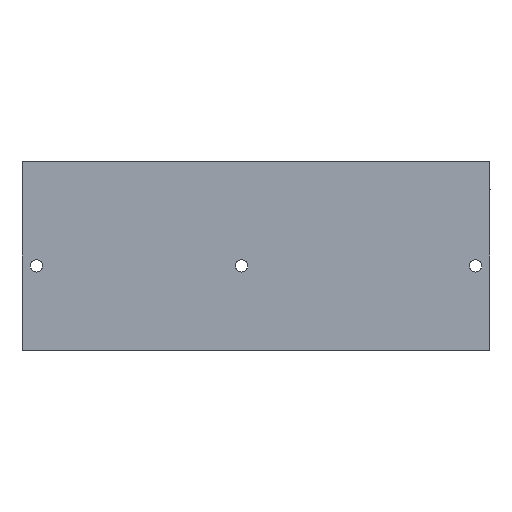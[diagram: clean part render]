
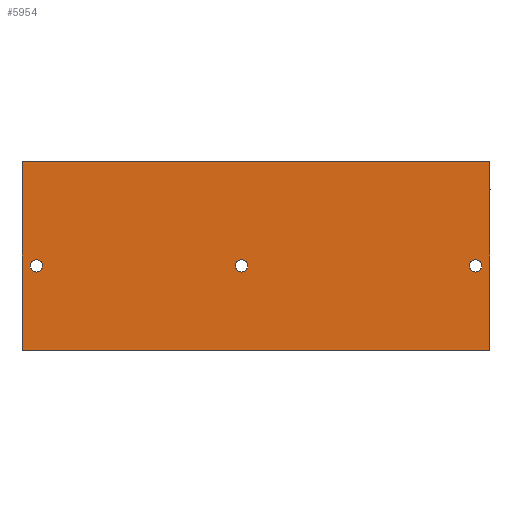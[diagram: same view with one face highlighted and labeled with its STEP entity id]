
A CAD part, front view. The second image highlights one B-rep face of the part: STEP entity #5954.
In plain terms, the highlighted planar face has unit normal (0, -1, 0).
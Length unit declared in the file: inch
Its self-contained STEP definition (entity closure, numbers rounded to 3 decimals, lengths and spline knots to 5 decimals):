
#113 = FACE_BOUND ( 'NONE', #2143, .T. ) ;
#206 = CARTESIAN_POINT ( 'NONE',  ( 0.4, 0., -2.9 ) ) ;
#221 = LINE ( 'NONE', #8350, #3692 ) ;
#464 = ORIENTED_EDGE ( 'NONE', *, *, #9910, .F. ) ;
#577 = FACE_BOUND ( 'NONE', #16115, .T. ) ;
#927 = ORIENTED_EDGE ( 'NONE', *, *, #9884, .F. ) ;
#960 = DIRECTION ( 'NONE',  ( 0., 0., 1. ) ) ;
#1014 = DIRECTION ( 'NONE',  ( 0., 1., 0. ) ) ;
#1239 = CARTESIAN_POINT ( 'NONE',  ( 12.6, 0., -2.9 ) ) ;
#1324 = CARTESIAN_POINT ( 'NONE',  ( 6.1, 0., -2.9 ) ) ;
#1326 = AXIS2_PLACEMENT_3D ( 'NONE', #5044, #4744, #4781 ) ;
#1682 = DIRECTION ( 'NONE',  ( 0., 0., 1. ) ) ;
#1970 = CIRCLE ( 'NONE', #7675, 0.172 ) ;
#2088 = CIRCLE ( 'NONE', #11096, 0.172 ) ;
#2143 = EDGE_LOOP ( 'NONE', ( #16672, #18063 ) ) ;
#2317 = VERTEX_POINT ( 'NONE', #6812 ) ;
#2548 = ORIENTED_EDGE ( 'NONE', *, *, #12016, .T. ) ;
#2718 = DIRECTION ( 'NONE',  ( 0., 0., 1. ) ) ;
#3385 = CARTESIAN_POINT ( 'NONE',  ( 13., 0., 0. ) ) ;
#3507 = CARTESIAN_POINT ( 'NONE',  ( 13., 0., 0. ) ) ;
#3623 = DIRECTION ( 'NONE',  ( 0., 0., -1. ) ) ;
#3638 = CARTESIAN_POINT ( 'NONE',  ( 6.1, 0., -2.9 ) ) ;
#3692 = VECTOR ( 'NONE', #7963, 39.37008 ) ;
#4039 = FACE_BOUND ( 'NONE', #7264, .T. ) ;
#4176 = CARTESIAN_POINT ( 'NONE',  ( 0.4, 0., -2.9 ) ) ;
#4234 = CARTESIAN_POINT ( 'NONE',  ( 0.4, 0., -2.728 ) ) ;
#4704 = PLANE ( 'NONE',  #1326 ) ;
#4744 = DIRECTION ( 'NONE',  ( 0., 1., 0. ) ) ;
#4781 = DIRECTION ( 'NONE',  ( 0., 0., 1. ) ) ;
#4838 = VERTEX_POINT ( 'NONE', #9068 ) ;
#5044 = CARTESIAN_POINT ( 'NONE',  ( 13., 0., 0. ) ) ;
#5170 = DIRECTION ( 'NONE',  ( 0., 0., 1. ) ) ;
#5689 = DIRECTION ( 'NONE',  ( 0., 0., 1. ) ) ;
#5708 = LINE ( 'NONE', #3507, #16160 ) ;
#5954 = ADVANCED_FACE ( 'NONE', ( #4039, #577, #113, #8008 ), #4704, .F. ) ;
#6083 = CARTESIAN_POINT ( 'NONE',  ( 12.6, 0., -2.728 ) ) ;
#6257 = CARTESIAN_POINT ( 'NONE',  ( 0.4, 0., -3.072 ) ) ;
#6812 = CARTESIAN_POINT ( 'NONE',  ( 0., 0., -5.25 ) ) ;
#7149 = AXIS2_PLACEMENT_3D ( 'NONE', #16656, #7749, #18136 ) ;
#7150 = VERTEX_POINT ( 'NONE', #8478 ) ;
#7264 = EDGE_LOOP ( 'NONE', ( #12944, #14348 ) ) ;
#7507 = CARTESIAN_POINT ( 'NONE',  ( 13., 0., -5.25 ) ) ;
#7675 = AXIS2_PLACEMENT_3D ( 'NONE', #4176, #14588, #5689 ) ;
#7695 = DIRECTION ( 'NONE',  ( -1., 0., 0. ) ) ;
#7749 = DIRECTION ( 'NONE',  ( 0., 1., 0. ) ) ;
#7872 = VERTEX_POINT ( 'NONE', #3385 ) ;
#7963 = DIRECTION ( 'NONE',  ( 0., 0., -1. ) ) ;
#8008 = FACE_OUTER_BOUND ( 'NONE', #15653, .T. ) ;
#8256 = LINE ( 'NONE', #15613, #15223 ) ;
#8350 = CARTESIAN_POINT ( 'NONE',  ( 13., 0., 0. ) ) ;
#8478 = CARTESIAN_POINT ( 'NONE',  ( 13., 0., -5.25 ) ) ;
#9068 = CARTESIAN_POINT ( 'NONE',  ( 0., 0., 0. ) ) ;
#9628 = CIRCLE ( 'NONE', #7149, 0.172 ) ;
#9884 = EDGE_CURVE ( 'NONE', #7872, #7150, #221, .T. ) ;
#9910 = EDGE_CURVE ( 'NONE', #7150, #2317, #16040, .T. ) ;
#9959 = VERTEX_POINT ( 'NONE', #6083 ) ;
#9988 = EDGE_CURVE ( 'NONE', #18853, #17103, #2088, .T. ) ;
#10303 = CARTESIAN_POINT ( 'NONE',  ( 12.6, 0., -3.072 ) ) ;
#10563 = DIRECTION ( 'NONE',  ( 0., 1., 0. ) ) ;
#11096 = AXIS2_PLACEMENT_3D ( 'NONE', #1324, #1014, #960 ) ;
#11610 = DIRECTION ( 'NONE',  ( 0., 1., 0. ) ) ;
#12016 = EDGE_CURVE ( 'NONE', #7872, #4838, #5708, .T. ) ;
#12084 = EDGE_CURVE ( 'NONE', #4838, #2317, #8256, .T. ) ;
#12203 = EDGE_CURVE ( 'NONE', #9959, #13217, #16869, .T. ) ;
#12518 = EDGE_CURVE ( 'NONE', #17103, #18853, #16146, .T. ) ;
#12922 = EDGE_CURVE ( 'NONE', #17426, #14218, #14968, .T. ) ;
#12944 = ORIENTED_EDGE ( 'NONE', *, *, #9988, .T. ) ;
#13217 = VERTEX_POINT ( 'NONE', #10303 ) ;
#13749 = CARTESIAN_POINT ( 'NONE',  ( 6.1, 0., -2.728 ) ) ;
#14051 = DIRECTION ( 'NONE',  ( 0., 1., 0. ) ) ;
#14218 = VERTEX_POINT ( 'NONE', #6257 ) ;
#14348 = ORIENTED_EDGE ( 'NONE', *, *, #12518, .T. ) ;
#14588 = DIRECTION ( 'NONE',  ( 0., 1., 0. ) ) ;
#14642 = VECTOR ( 'NONE', #7695, 39.37008 ) ;
#14799 = ORIENTED_EDGE ( 'NONE', *, *, #12922, .T. ) ;
#14968 = CIRCLE ( 'NONE', #16951, 0.172 ) ;
#15223 = VECTOR ( 'NONE', #3623, 39.37008 ) ;
#15613 = CARTESIAN_POINT ( 'NONE',  ( 0., 0., 0. ) ) ;
#15653 = EDGE_LOOP ( 'NONE', ( #18518, #464, #927, #2548 ) ) ;
#16040 = LINE ( 'NONE', #7507, #14642 ) ;
#16115 = EDGE_LOOP ( 'NONE', ( #14799, #16222 ) ) ;
#16146 = CIRCLE ( 'NONE', #17854, 0.172 ) ;
#16160 = VECTOR ( 'NONE', #18375, 39.37008 ) ;
#16222 = ORIENTED_EDGE ( 'NONE', *, *, #17376, .T. ) ;
#16656 = CARTESIAN_POINT ( 'NONE',  ( 12.6, 0., -2.9 ) ) ;
#16672 = ORIENTED_EDGE ( 'NONE', *, *, #12203, .T. ) ;
#16869 = CIRCLE ( 'NONE', #18211, 0.172 ) ;
#16951 = AXIS2_PLACEMENT_3D ( 'NONE', #206, #10563, #1682 ) ;
#17094 = CARTESIAN_POINT ( 'NONE',  ( 6.1, 0., -3.072 ) ) ;
#17103 = VERTEX_POINT ( 'NONE', #17094 ) ;
#17376 = EDGE_CURVE ( 'NONE', #14218, #17426, #1970, .T. ) ;
#17426 = VERTEX_POINT ( 'NONE', #4234 ) ;
#17675 = EDGE_CURVE ( 'NONE', #13217, #9959, #9628, .T. ) ;
#17854 = AXIS2_PLACEMENT_3D ( 'NONE', #3638, #14051, #5170 ) ;
#18063 = ORIENTED_EDGE ( 'NONE', *, *, #17675, .T. ) ;
#18136 = DIRECTION ( 'NONE',  ( 0., 0., 1. ) ) ;
#18211 = AXIS2_PLACEMENT_3D ( 'NONE', #1239, #11610, #2718 ) ;
#18375 = DIRECTION ( 'NONE',  ( -1., 0., 0. ) ) ;
#18518 = ORIENTED_EDGE ( 'NONE', *, *, #12084, .T. ) ;
#18853 = VERTEX_POINT ( 'NONE', #13749 ) ;
